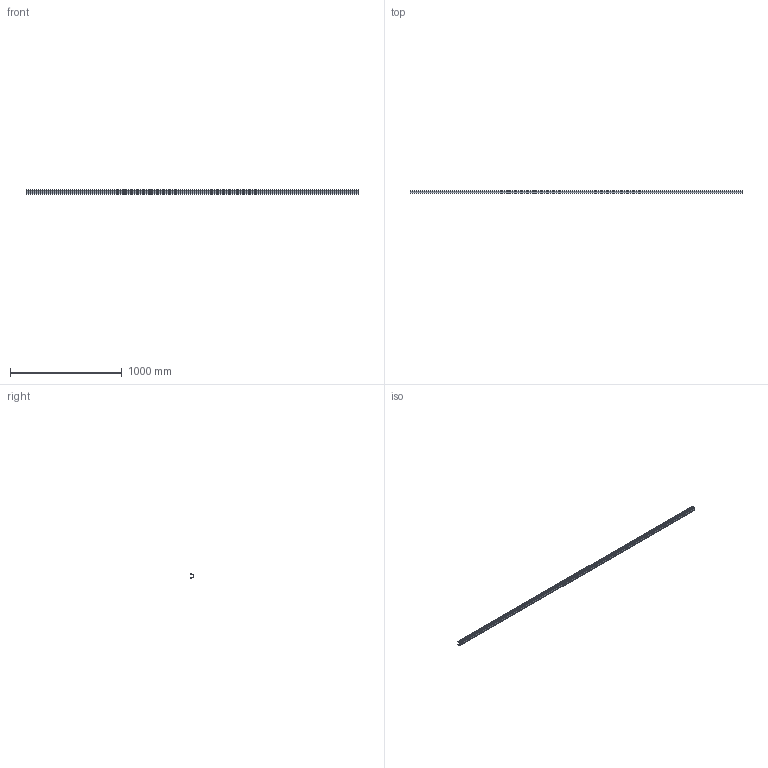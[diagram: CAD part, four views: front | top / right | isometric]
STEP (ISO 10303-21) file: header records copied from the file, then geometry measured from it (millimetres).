
FILE_DESCRIPTION( ( 'STEP AP203' ), '1' );
FILE_NAME( 'C:/Temp/Ganter_Step_05_03_2020/data/3_8/gn_646_3/Carrier profile GN 646.3-2970-A (15).stp', '2020-03-12T15:24:23', ( 'License CC BY-ND 4.0' ), ( 'CADENAS' ), ' ', 'PARTsolutions', ' ' );
FILE_SCHEMA( ( 'CONFIG_CONTROL_DESIGN' ) );
Length unit declared in the file: millimetre
Products named in the file (1): _Carrier profile GN 646.3-2970-A (15)
Bounding box: 2970 x 26.5 x 36 mm (x, y, z)
Volume: 498775.5 mm3; surface area: 623732.5 mm2
Topology: 1 solids, 1 shells, 112 faces, 330 edges, 220 vertices
Faces by surface type: plane 70, cylinder 42
Entity records: 3782 total; most frequent: CARTESIAN_POINT 663, ORIENTED_EDGE 660, DIRECTION 640, EDGE_CURVE 330, LINE 246, VECTOR 246, VERTEX_POINT 220, AXIS2_PLACEMENT_3D 197
